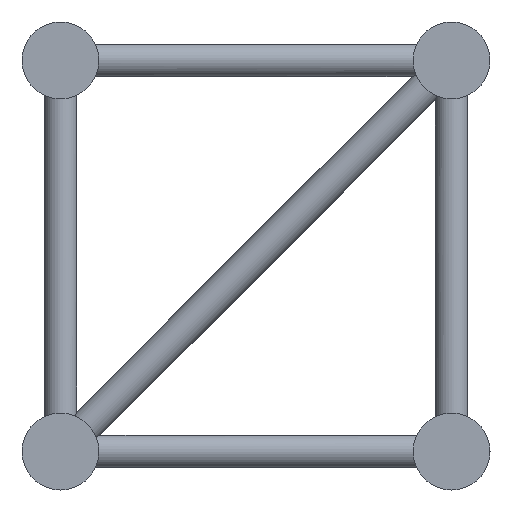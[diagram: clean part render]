
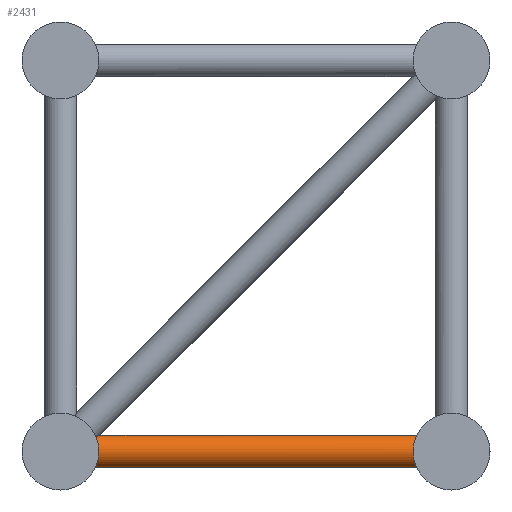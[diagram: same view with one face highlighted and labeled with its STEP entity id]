
A CAD part, left-side view. The second image highlights one B-rep face of the part: STEP entity #2431.
In plain terms, the highlighted cylindrical face has radius 12.5 mm (diameter 25 mm), a full revolution.
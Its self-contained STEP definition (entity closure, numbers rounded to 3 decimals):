
#33=ELLIPSE('',#2676,32.664,12.5);
#107=FACE_BOUND('',#630,.T.);
#402=FACE_OUTER_BOUND('',#629,.T.);
#629=EDGE_LOOP('',(#1854,#1855,#1856,#1857));
#630=EDGE_LOOP('',(#1858,#1859));
#798=CIRCLE('',#2531,12.5);
#799=CIRCLE('',#2532,12.5);
#867=CIRCLE('',#2677,12.5);
#868=CIRCLE('',#2678,12.5);
#869=CIRCLE('',#2679,12.5);
#1026=VERTEX_POINT('',#3556);
#1027=VERTEX_POINT('',#3558);
#1028=VERTEX_POINT('',#3560);
#1029=VERTEX_POINT('',#3562);
#1108=VERTEX_POINT('',#5120);
#1109=VERTEX_POINT('',#5121);
#1235=EDGE_CURVE('',#1026,#1027,#798,.T.);
#1237=EDGE_CURVE('',#1028,#1029,#799,.T.);
#1413=EDGE_CURVE('',#1027,#1028,#33,.T.);
#1414=EDGE_CURVE('',#1029,#1026,#867,.T.);
#1415=EDGE_CURVE('',#1109,#1108,#868,.T.);
#1416=EDGE_CURVE('',#1108,#1109,#869,.T.);
#1854=ORIENTED_EDGE('',*,*,#1413,.F.);
#1855=ORIENTED_EDGE('',*,*,#1235,.F.);
#1856=ORIENTED_EDGE('',*,*,#1414,.F.);
#1857=ORIENTED_EDGE('',*,*,#1237,.F.);
#1858=ORIENTED_EDGE('',*,*,#1415,.F.);
#1859=ORIENTED_EDGE('',*,*,#1416,.F.);
#2165=CYLINDRICAL_SURFACE('',#2675,12.5);
#2431=ADVANCED_FACE('',(#402,#107),#2165,.T.);
#2531=AXIS2_PLACEMENT_3D('',#3559,#2846,#2847);
#2532=AXIS2_PLACEMENT_3D('',#3563,#2849,#2850);
#2675=AXIS2_PLACEMENT_3D('',#5879,#3168,#3169);
#2676=AXIS2_PLACEMENT_3D('',#5880,#3170,#3171);
#2677=AXIS2_PLACEMENT_3D('',#5881,#3172,#3173);
#2678=AXIS2_PLACEMENT_3D('',#5882,#3174,#3175);
#2679=AXIS2_PLACEMENT_3D('',#5883,#3176,#3177);
#2846=DIRECTION('center_axis',(0.,1.,0.));
#2847=DIRECTION('ref_axis',(0.048,0.,0.999));
#2849=DIRECTION('center_axis',(0.,1.,0.));
#2850=DIRECTION('ref_axis',(0.048,0.,0.999));
#3168=DIRECTION('center_axis',(0.,-1.,0.));
#3169=DIRECTION('ref_axis',(0.048,0.,0.999));
#3170=DIRECTION('center_axis',(0.,0.383,0.924));
#3171=DIRECTION('ref_axis',(0.,-0.924,0.383));
#3172=DIRECTION('center_axis',(0.,1.,0.));
#3173=DIRECTION('ref_axis',(0.048,0.,0.999));
#3174=DIRECTION('center_axis',(0.,-1.,0.));
#3175=DIRECTION('ref_axis',(0.048,0.,0.999));
#3176=DIRECTION('center_axis',(0.,-1.,0.));
#3177=DIRECTION('ref_axis',(0.048,0.,0.999));
#3556=CARTESIAN_POINT('',(80.,274.,-299.));
#3558=CARTESIAN_POINT('',(85.499,274.,-288.645));
#3559=CARTESIAN_POINT('Origin',(92.5,274.,-299.));
#3560=CARTESIAN_POINT('',(99.501,274.,-288.645));
#3562=CARTESIAN_POINT('',(105.,274.,-299.));
#3563=CARTESIAN_POINT('Origin',(92.5,274.,-299.));
#5120=CARTESIAN_POINT('',(105.,25.,-299.));
#5121=CARTESIAN_POINT('',(80.,25.,-299.));
#5879=CARTESIAN_POINT('Origin',(92.5,274.,-299.));
#5880=CARTESIAN_POINT('Origin',(92.5,299.,-299.));
#5881=CARTESIAN_POINT('Origin',(92.5,274.,-299.));
#5882=CARTESIAN_POINT('Origin',(92.5,25.,-299.));
#5883=CARTESIAN_POINT('Origin',(92.5,25.,-299.));
